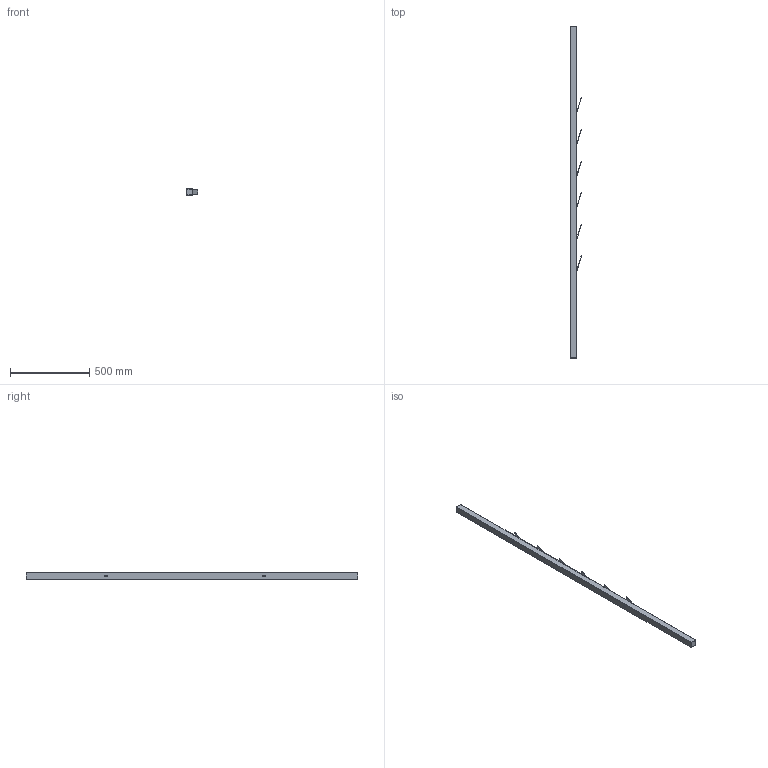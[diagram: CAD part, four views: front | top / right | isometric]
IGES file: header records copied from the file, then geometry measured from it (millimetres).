
Start section: SolidWorks IGES file using NURBS representation for surfaces
Global section: file name: G:\VICCARBE\PRODUCTOS\FAMILIAS 2D - 3D (PRODUCTOS VICCARBE)\3D (IGES + STL + DWG)\02-WINDOW\01-IGES\VICCARBE_Window_coathangerwall.IGS; native system: SolidWorks 2009; preprocessor: SolidWorks 2009; author: RUBEN; date: 110830.124331; units: millimetre
Bounding box: 70.9 x 2100 x 40 mm (x, y, z)
Surface area: 934270 mm2 (no closed solid volume)
Topology: 0 solids, 0 shells, 98 faces, 800 edges, 800 vertices
Faces by surface type: bspline 98
